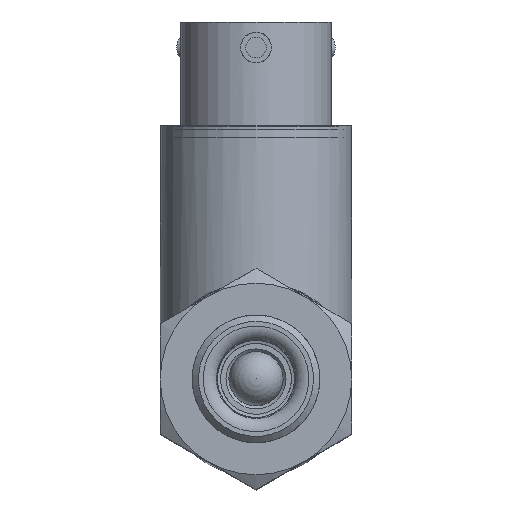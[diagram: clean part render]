
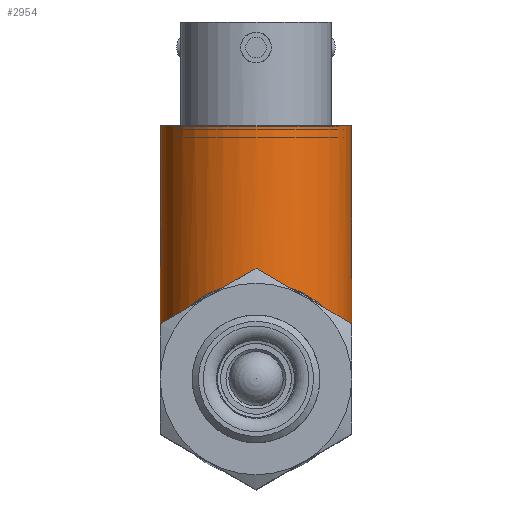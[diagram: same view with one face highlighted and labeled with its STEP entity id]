
A CAD part, top view. The second image highlights one B-rep face of the part: STEP entity #2954.
In plain terms, the highlighted cylindrical face has radius 9.525 mm (diameter 19.05 mm), a full revolution.
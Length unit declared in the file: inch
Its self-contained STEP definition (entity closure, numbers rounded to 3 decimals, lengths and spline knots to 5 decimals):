
#70=B_SPLINE_CURVE_WITH_KNOTS('',3,(#6783,#6784,#6785,#6786,#6787,#6788,
#6789,#6790,#6791,#6792,#6793,#6794,#6795,#6796,#6797,#6798,#6799,#6800,
#6801,#6802,#6803,#6804,#6805,#6806,#6807,#6808,#6809,#6810,#6811,#6812),
 .UNSPECIFIED.,.F.,.F.,(4,1,1,1,1,1,1,1,1,1,1,1,1,1,1,1,1,1,1,1,1,1,1,1,
1,1,1,4),(-9.63701,-9.40756,-9.17811,-8.7192,
-8.41326,-8.26029,-8.10733,-8.03084,
-7.95436,-7.80139,-7.49545,-7.18952,
-6.88358,-6.57764,-6.27171,-5.96577,
-5.65983,-5.35389,-5.04796,-4.89499,-4.81851,
-4.74202,-4.58905,-4.43608,-4.13015,
-3.67124,-3.44179,-3.21234),.UNSPECIFIED.);
#335=FACE_OUTER_BOUND('',#554,.T.);
#554=EDGE_LOOP('',(#2070,#2071,#2072,#2073));
#764=LINE('',#6862,#900);
#900=VECTOR('',#3929,0.375);
#1075=CIRCLE('',#3381,0.375);
#1282=VERTEX_POINT('',#6750);
#1286=VERTEX_POINT('',#6861);
#1573=EDGE_CURVE('',#1282,#1282,#70,.T.);
#1576=EDGE_CURVE('',#1286,#1282,#764,.T.);
#1577=EDGE_CURVE('',#1286,#1286,#1075,.T.);
#2070=ORIENTED_EDGE('',*,*,#1576,.F.);
#2071=ORIENTED_EDGE('',*,*,#1577,.F.);
#2072=ORIENTED_EDGE('',*,*,#1576,.T.);
#2073=ORIENTED_EDGE('',*,*,#1573,.F.);
#2653=CYLINDRICAL_SURFACE('',#3380,0.375);
#2954=ADVANCED_FACE('',(#335),#2653,.T.);
#3380=AXIS2_PLACEMENT_3D('',#6860,#3927,#3928);
#3381=AXIS2_PLACEMENT_3D('',#6863,#3930,#3931);
#3927=DIRECTION('center_axis',(0.,1.,0.));
#3928=DIRECTION('ref_axis',(0.,0.,1.));
#3929=DIRECTION('',(0.,-1.,0.));
#3930=DIRECTION('center_axis',(0.,1.,0.));
#3931=DIRECTION('ref_axis',(0.,0.,1.));
#6750=CARTESIAN_POINT('',(0.,0.3875,-2.));
#6783=CARTESIAN_POINT('Ctrl Pts',(0.,0.3875,
-2.));
#6784=CARTESIAN_POINT('Ctrl Pts',(0.03115,0.3875,
-2.));
#6785=CARTESIAN_POINT('Ctrl Pts',(0.09334,0.38036,
-1.99213));
#6786=CARTESIAN_POINT('Ctrl Pts',(0.20461,0.34112,-1.94842));
#6787=CARTESIAN_POINT('Ctrl Pts',(0.29321,0.27238,-1.87027));
#6788=CARTESIAN_POINT('Ctrl Pts',(0.3437,0.20219,-1.78173));
#6789=CARTESIAN_POINT('Ctrl Pts',(0.36561,0.15992,-1.71432));
#6790=CARTESIAN_POINT('Ctrl Pts',(0.37367,0.14038,-1.66655));
#6791=CARTESIAN_POINT('Ctrl Pts',(0.37544,0.13578,-1.625));
#6792=CARTESIAN_POINT('Ctrl Pts',(0.37368,0.14032,-1.58338));
#6793=CARTESIAN_POINT('Ctrl Pts',(0.36228,0.16817,-1.51678));
#6794=CARTESIAN_POINT('Ctrl Pts',(0.32973,0.226,-1.43719));
#6795=CARTESIAN_POINT('Ctrl Pts',(0.26716,0.29414,-1.35483));
#6796=CARTESIAN_POINT('Ctrl Pts',(0.1787,0.35265,-1.28868));
#6797=CARTESIAN_POINT('Ctrl Pts',(0.06402,0.38891,
-1.24841));
#6798=CARTESIAN_POINT('Ctrl Pts',(-0.06405,0.38899,
-1.24832));
#6799=CARTESIAN_POINT('Ctrl Pts',(-0.17867,0.35265,
-1.28872));
#6800=CARTESIAN_POINT('Ctrl Pts',(-0.26717,0.29409,
-1.35477));
#6801=CARTESIAN_POINT('Ctrl Pts',(-0.32974,0.226,
-1.43726));
#6802=CARTESIAN_POINT('Ctrl Pts',(-0.36229,0.16812,
-1.51674));
#6803=CARTESIAN_POINT('Ctrl Pts',(-0.37368,0.14033,
-1.58342));
#6804=CARTESIAN_POINT('Ctrl Pts',(-0.37544,0.13579,
-1.62502));
#6805=CARTESIAN_POINT('Ctrl Pts',(-0.37367,0.14039,
-1.66658));
#6806=CARTESIAN_POINT('Ctrl Pts',(-0.3656,0.15994,
-1.71434));
#6807=CARTESIAN_POINT('Ctrl Pts',(-0.34369,0.20219,-1.78175));
#6808=CARTESIAN_POINT('Ctrl Pts',(-0.29321,0.27239,
-1.87028));
#6809=CARTESIAN_POINT('Ctrl Pts',(-0.20461,0.34111,
-1.94842));
#6810=CARTESIAN_POINT('Ctrl Pts',(-0.09334,0.38036,
-1.99213));
#6811=CARTESIAN_POINT('Ctrl Pts',(-0.03115,0.3875,
-2.));
#6812=CARTESIAN_POINT('Ctrl Pts',(0.,0.3875,
-2.));
#6860=CARTESIAN_POINT('Origin',(0.,0.47,
-1.625));
#6861=CARTESIAN_POINT('',(0.,1.,-2.));
#6862=CARTESIAN_POINT('',(0.,0.47,-2.));
#6863=CARTESIAN_POINT('Origin',(0.,1.,
-1.625));
